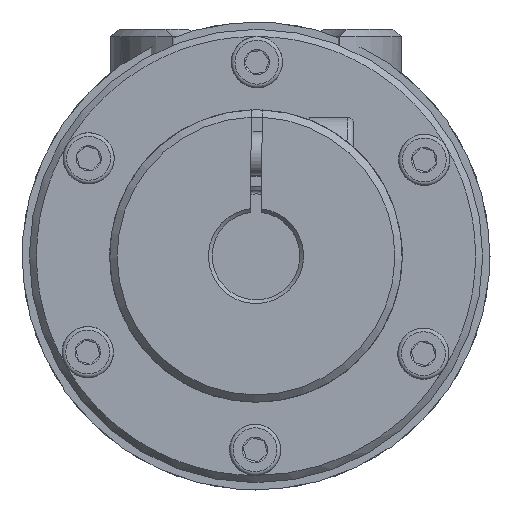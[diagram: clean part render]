
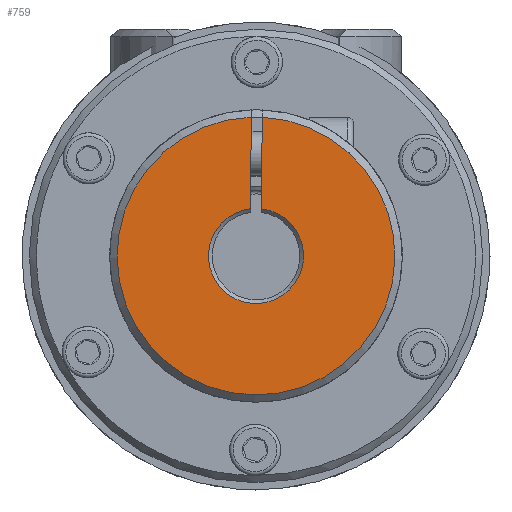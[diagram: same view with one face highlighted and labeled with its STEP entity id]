
A CAD part, left-side view. The second image highlights one B-rep face of the part: STEP entity #759.
In plain terms, the highlighted planar face has unit normal (-1, 0, 0) as drawn and (0, 0, -1) by its records, which use the part's own axes.
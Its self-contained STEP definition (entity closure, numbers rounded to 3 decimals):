
#759 = ADVANCED_FACE( '', ( #1586 ), #1587, .T. );
#1586 = FACE_OUTER_BOUND( '', #2434, .T. );
#1587 = PLANE( '', #2435 );
#2434 = EDGE_LOOP( '', ( #4588, #4589, #4590, #4591 ) );
#2435 = AXIS2_PLACEMENT_3D( '', #4592, #4593, #4594 );
#4588 = ORIENTED_EDGE( '', *, *, #5403, .T. );
#4589 = ORIENTED_EDGE( '', *, *, #5356, .T. );
#4590 = ORIENTED_EDGE( '', *, *, #5357, .F. );
#4591 = ORIENTED_EDGE( '', *, *, #5410, .T. );
#4592 = CARTESIAN_POINT( '', ( 0., 0., 0. ) );
#4593 = DIRECTION( '', ( 0., 0., -1. ) );
#4594 = DIRECTION( '', ( 0., -1., 0. ) );
#5356 = EDGE_CURVE( '', #6404, #6408, #6410, .F. );
#5357 = EDGE_CURVE( '', #6411, #6408, #6412, .F. );
#5403 = EDGE_CURVE( '', #6483, #6404, #6484, .T. );
#5410 = EDGE_CURVE( '', #6411, #6483, #6492, .T. );
#6404 = VERTEX_POINT( '', #8541 );
#6408 = VERTEX_POINT( '', #8548 );
#6410 = CIRCLE( '', #8553, 6.5 );
#6411 = VERTEX_POINT( '', #8554 );
#6412 = LINE( '', #8555, #8556 );
#6483 = VERTEX_POINT( '', #8681 );
#6484 = LINE( '', #8682, #8683 );
#6492 = CIRCLE( '', #8699, 19. );
#8541 = CARTESIAN_POINT( '', ( -6.457, -0.75, 0. ) );
#8548 = CARTESIAN_POINT( '', ( -6.457, 0.75, 0. ) );
#8553 = AXIS2_PLACEMENT_3D( '', #9869, #9870, #9871 );
#8554 = CARTESIAN_POINT( '', ( -18.985, 0.75, 0. ) );
#8555 = CARTESIAN_POINT( '', ( -20., 0.75, 0. ) );
#8556 = VECTOR( '', #9872, 1000. );
#8681 = CARTESIAN_POINT( '', ( -18.985, -0.75, 0. ) );
#8682 = CARTESIAN_POINT( '', ( 0., -0.75, 0. ) );
#8683 = VECTOR( '', #9953, 1000. );
#8699 = AXIS2_PLACEMENT_3D( '', #9962, #9963, #9964 );
#9869 = CARTESIAN_POINT( '', ( 0., 0., 0. ) );
#9870 = DIRECTION( '', ( 0., 0., -1. ) );
#9871 = DIRECTION( '', ( -1., 0., 0. ) );
#9872 = DIRECTION( '', ( -1., 0., 0. ) );
#9953 = DIRECTION( '', ( 1., 0., 0. ) );
#9962 = CARTESIAN_POINT( '', ( 0., 0., 0. ) );
#9963 = DIRECTION( '', ( 0., 0., -1. ) );
#9964 = DIRECTION( '', ( -1., 0., 0. ) );
